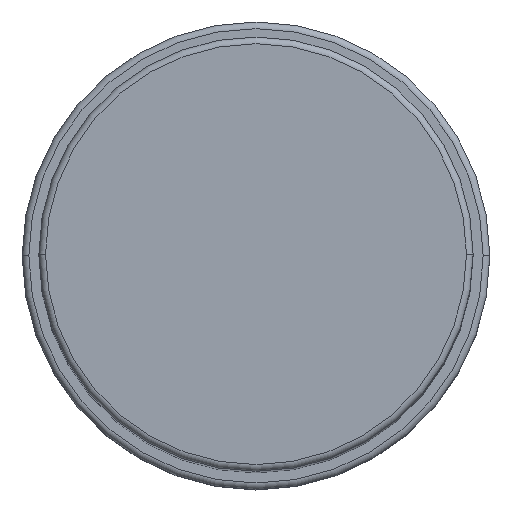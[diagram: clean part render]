
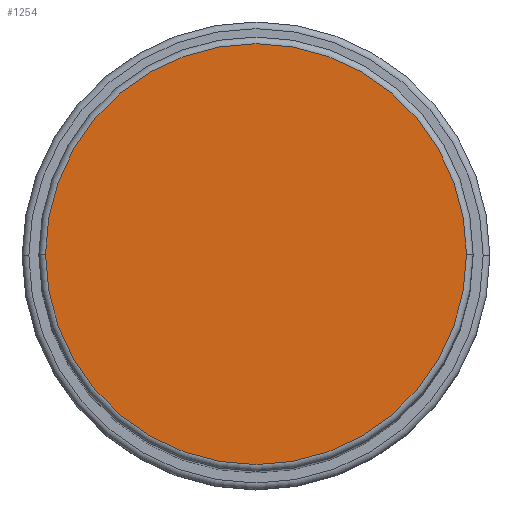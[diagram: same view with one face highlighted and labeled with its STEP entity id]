
A CAD part, top view. The second image highlights one B-rep face of the part: STEP entity #1254.
In plain terms, the highlighted planar face has unit normal (0, 0, 1).
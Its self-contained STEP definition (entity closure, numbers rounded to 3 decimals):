
#26 = AXIS2_PLACEMENT_3D ( 'NONE', #1533, #1585, #36 ) ;
#36 = DIRECTION ( 'NONE',  ( 1., 0., 0. ) ) ;
#125 = AXIS2_PLACEMENT_3D ( 'NONE', #203, #1148, #1922 ) ;
#137 = EDGE_LOOP ( 'NONE', ( #1654, #824 ) ) ;
#203 = CARTESIAN_POINT ( 'NONE',  ( 0., 0., 158. ) ) ;
#233 = VERTEX_POINT ( 'NONE', #1965 ) ;
#415 = CARTESIAN_POINT ( 'NONE',  ( -31.5, 0., 158. ) ) ;
#461 = CARTESIAN_POINT ( 'NONE',  ( 0., 0., 158. ) ) ;
#476 = DIRECTION ( 'NONE',  ( 0., 0., 1. ) ) ;
#527 = EDGE_CURVE ( 'NONE', #233, #854, #1405, .T. ) ;
#820 = CIRCLE ( 'NONE', #26, 31.5 ) ;
#824 = ORIENTED_EDGE ( 'NONE', *, *, #1293, .T. ) ;
#835 = AXIS2_PLACEMENT_3D ( 'NONE', #461, #476, #1369 ) ;
#854 = VERTEX_POINT ( 'NONE', #415 ) ;
#1148 = DIRECTION ( 'NONE',  ( 0., 0., 1. ) ) ;
#1254 = ADVANCED_FACE ( 'NONE', ( #1734 ), #1403, .T. ) ;
#1293 = EDGE_CURVE ( 'NONE', #854, #233, #820, .T. ) ;
#1369 = DIRECTION ( 'NONE',  ( 1., 0., 0. ) ) ;
#1403 = PLANE ( 'NONE',  #835 ) ;
#1405 = CIRCLE ( 'NONE', #125, 31.5 ) ;
#1533 = CARTESIAN_POINT ( 'NONE',  ( 0., 0., 158. ) ) ;
#1585 = DIRECTION ( 'NONE',  ( 0., 0., 1. ) ) ;
#1654 = ORIENTED_EDGE ( 'NONE', *, *, #527, .T. ) ;
#1734 = FACE_OUTER_BOUND ( 'NONE', #137, .T. ) ;
#1922 = DIRECTION ( 'NONE',  ( 1., 0., 0. ) ) ;
#1965 = CARTESIAN_POINT ( 'NONE',  ( 31.5, 0., 158. ) ) ;
